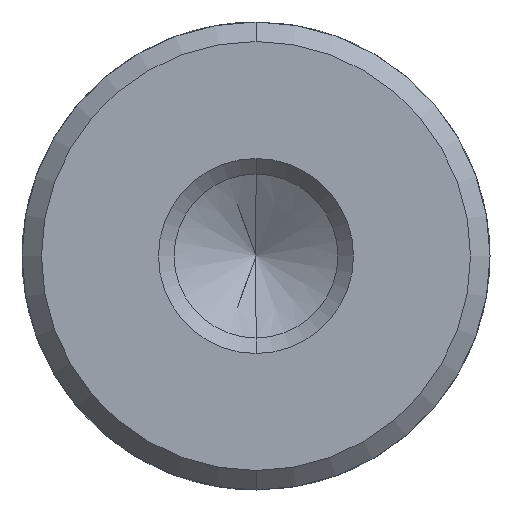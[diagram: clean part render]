
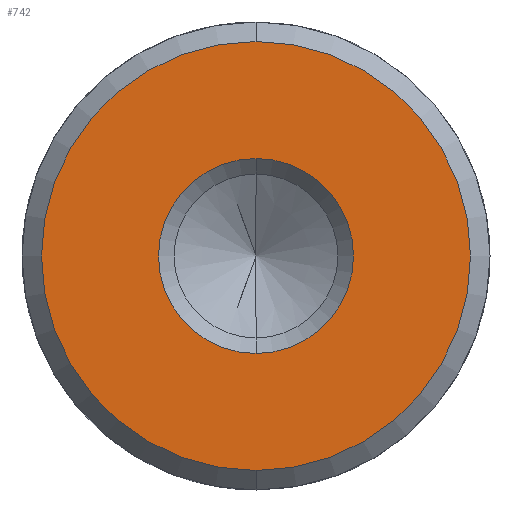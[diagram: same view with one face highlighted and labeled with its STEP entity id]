
A CAD part, front view. The second image highlights one B-rep face of the part: STEP entity #742.
In plain terms, the highlighted planar face has unit normal (0, -1, 0).
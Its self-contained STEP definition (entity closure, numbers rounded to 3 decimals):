
#14 = EDGE_CURVE ( 'NONE', #353, #728, #652, .T. ) ;
#38 = CARTESIAN_POINT ( 'NONE',  ( 0., 0., -5.5 ) ) ;
#60 = DIRECTION ( 'NONE',  ( 0., -1., 0. ) ) ;
#62 = ORIENTED_EDGE ( 'NONE', *, *, #233, .F. ) ;
#66 = AXIS2_PLACEMENT_3D ( 'NONE', #578, #637, #287 ) ;
#71 = AXIS2_PLACEMENT_3D ( 'NONE', #668, #146, #557 ) ;
#85 = EDGE_CURVE ( 'NONE', #301, #403, #101, .T. ) ;
#90 = FACE_BOUND ( 'NONE', #520, .T. ) ;
#101 = CIRCLE ( 'NONE', #71, 5.5 ) ;
#146 = DIRECTION ( 'NONE',  ( 0., -1., 0. ) ) ;
#200 = ORIENTED_EDGE ( 'NONE', *, *, #586, .T. ) ;
#206 = CARTESIAN_POINT ( 'NONE',  ( 0., 0., -2.5 ) ) ;
#207 = AXIS2_PLACEMENT_3D ( 'NONE', #563, #255, #211 ) ;
#211 = DIRECTION ( 'NONE',  ( 0., 0., 1. ) ) ;
#226 = CARTESIAN_POINT ( 'NONE',  ( 0., 0., 0. ) ) ;
#233 = EDGE_CURVE ( 'NONE', #728, #353, #273, .T. ) ;
#255 = DIRECTION ( 'NONE',  ( 0., 1., 0. ) ) ;
#273 = CIRCLE ( 'NONE', #445, 2.5 ) ;
#287 = DIRECTION ( 'NONE',  ( 0., 0., 1. ) ) ;
#301 = VERTEX_POINT ( 'NONE', #38 ) ;
#353 = VERTEX_POINT ( 'NONE', #552 ) ;
#403 = VERTEX_POINT ( 'NONE', #461 ) ;
#431 = EDGE_LOOP ( 'NONE', ( #200, #716 ) ) ;
#445 = AXIS2_PLACEMENT_3D ( 'NONE', #226, #60, #628 ) ;
#461 = CARTESIAN_POINT ( 'NONE',  ( 0., 0., 5.5 ) ) ;
#493 = PLANE ( 'NONE',  #207 ) ;
#520 = EDGE_LOOP ( 'NONE', ( #62, #607 ) ) ;
#552 = CARTESIAN_POINT ( 'NONE',  ( 0., 0., 2.5 ) ) ;
#553 = DIRECTION ( 'NONE',  ( 0., 0., -1. ) ) ;
#557 = DIRECTION ( 'NONE',  ( 0., 0., 1. ) ) ;
#563 = CARTESIAN_POINT ( 'NONE',  ( -6., 0., 0. ) ) ;
#578 = CARTESIAN_POINT ( 'NONE',  ( 0., 0., 0. ) ) ;
#586 = EDGE_CURVE ( 'NONE', #403, #301, #587, .T. ) ;
#587 = CIRCLE ( 'NONE', #66, 5.5 ) ;
#607 = ORIENTED_EDGE ( 'NONE', *, *, #14, .F. ) ;
#628 = DIRECTION ( 'NONE',  ( 0., 0., -1. ) ) ;
#637 = DIRECTION ( 'NONE',  ( 0., -1., 0. ) ) ;
#644 = AXIS2_PLACEMENT_3D ( 'NONE', #664, #726, #553 ) ;
#652 = CIRCLE ( 'NONE', #644, 2.5 ) ;
#664 = CARTESIAN_POINT ( 'NONE',  ( 0., 0., 0. ) ) ;
#668 = CARTESIAN_POINT ( 'NONE',  ( 0., 0., 0. ) ) ;
#695 = FACE_OUTER_BOUND ( 'NONE', #431, .T. ) ;
#716 = ORIENTED_EDGE ( 'NONE', *, *, #85, .T. ) ;
#726 = DIRECTION ( 'NONE',  ( 0., -1., 0. ) ) ;
#728 = VERTEX_POINT ( 'NONE', #206 ) ;
#742 = ADVANCED_FACE ( 'NONE', ( #695, #90 ), #493, .F. ) ;
